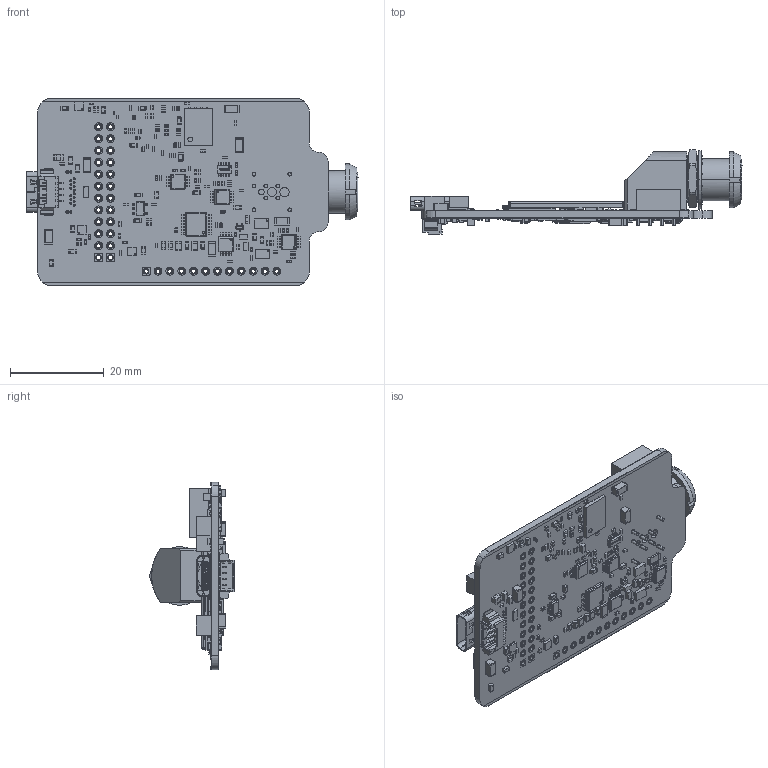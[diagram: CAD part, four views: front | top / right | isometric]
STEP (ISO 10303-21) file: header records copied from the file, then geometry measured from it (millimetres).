
FILE_DESCRIPTION (( 'STEP AP214' ), '1' );
FILE_NAME ('EmStat4M HR.STEP', '2021-09-29T07:29:53', ( '' ), ( '' ), 'SwSTEP 2.0', 'SolidWorks 2021', '' );
FILE_SCHEMA (( 'AUTOMOTIVE_DESIGN' ));
Length unit declared in the file: millimetre
Products named in the file (1): EmStat4M HR
Bounding box: 70.91 x 17.98 x 40 mm (x, y, z)
Surface area: 11899.2 mm2 (no closed solid volume)
Topology: 0 solids, 1161 shells, 5042 faces, 18030 edges, 13948 vertices
Faces by surface type: plane 3268, cylinder 1606, sphere 88, bspline 76, cone 4
Entity records: 252702 total; most frequent: CARTESIAN_POINT 49587, DIRECTION 30440, ORIENTED_EDGE 23560, EDGE_CURVE 17962, VERTEX_POINT 13948, VECTOR 13070, LINE 13070, AXIS2_PLACEMENT_3D 8685
